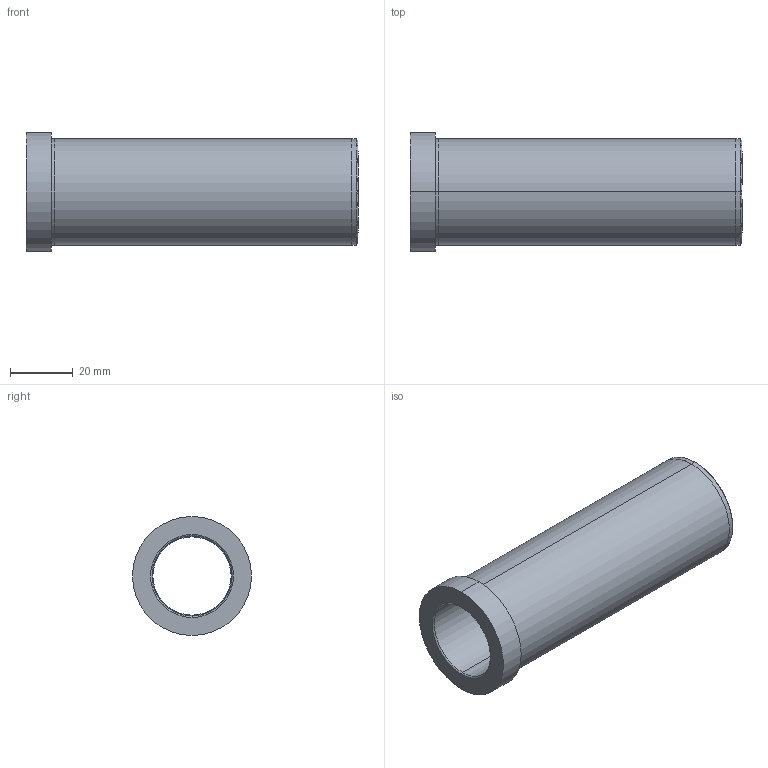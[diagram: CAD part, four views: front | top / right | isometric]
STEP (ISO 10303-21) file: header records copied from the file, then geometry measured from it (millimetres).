
FILE_DESCRIPTION( ( 'STEP AP203' ), '1' );
FILE_NAME( 'D:/Delta 3 D/D20/D20 - 25x106.step', '2002-12-31T23:46:03', ( ' ' ), ( ' ' ), 'XStep 1.0', ' ', ' ' );
FILE_SCHEMA( ( 'CONFIG_CONTROL_DESIGN' ) );
Length unit declared in the file: metre
Products named in the file (1): 1
Bounding box: 106 x 38 x 38 mm (x, y, z)
Volume: 45481.4 mm3; surface area: 21025.9 mm2
Topology: 1 solids, 1 shells, 24 faces, 48 edges, 30 vertices
Faces by surface type: revolution 14, bspline 10
Entity records: 755 total; most frequent: CARTESIAN_POINT 221, ORIENTED_EDGE 96, DIRECTION 90, EDGE_CURVE 48, AXIS2_PLACEMENT_3D 31, EDGE_LOOP 30, VERTEX_POINT 30, CIRCLE 30
